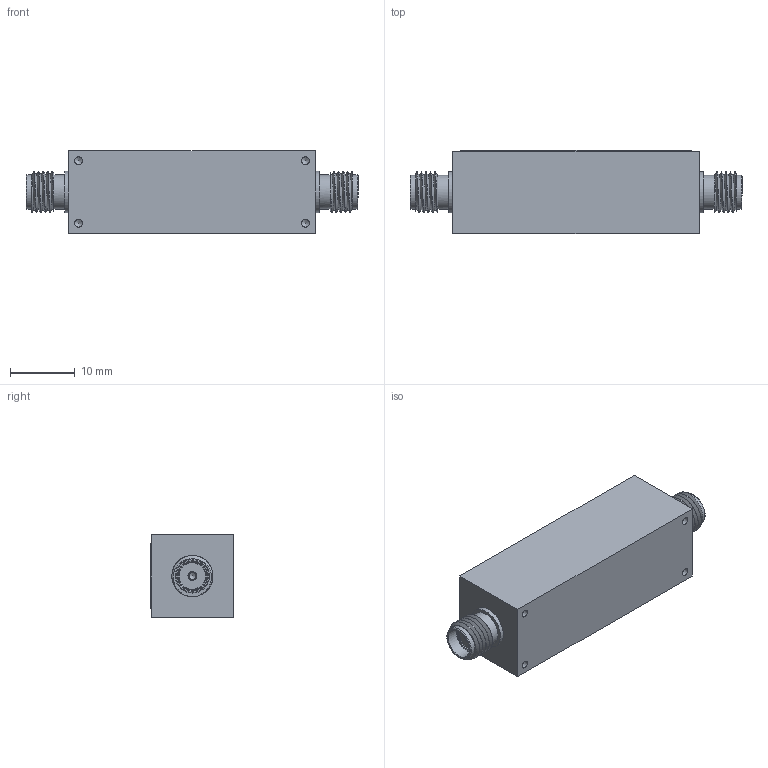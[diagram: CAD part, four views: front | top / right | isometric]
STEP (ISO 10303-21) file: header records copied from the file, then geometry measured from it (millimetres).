
FILE_DESCRIPTION (( 'STEP AP214' ), '1' );
FILE_NAME ('8BP250-100-3B-SFF 3D Model.STEP', '2025-07-01T20:31:17', ( '' ), ( '' ), 'SwSTEP 2.0', 'SolidWorks 2024', '' );
FILE_SCHEMA (( 'AUTOMOTIVE_DESIGN' ));
Length unit declared in the file: inch
Products named in the file (1): 8BP250-100-3B-SFF 3D Model
Bounding box: 51.31 x 12.83 x 12.7 mm (x, y, z)
Volume: 6582.7 mm3; surface area: 3809.5 mm2
Topology: 4 solids, 6 shells, 972 faces, 3540 edges, 2702 vertices
Faces by surface type: cylinder 412, torus 402, plane 146, cone 8, bspline 4
Full cylindrical faces by diameter (mm): 1.016 x2, 1.191 x4, 1.27 x4, 4.191 x2, 4.597 x2, 5.283 x6, 6.35 x2
Entity records: 69781 total; most frequent: CARTESIAN_POINT 27616, ORIENTED_EDGE 6964, DIRECTION 5435, EDGE_CURVE 3482, VERTEX_POINT 2692, AXIS2_PLACEMENT_3D 2207, CIRCLE 1238, B_SPLINE_CURVE_WITH_KNOTS 1217
